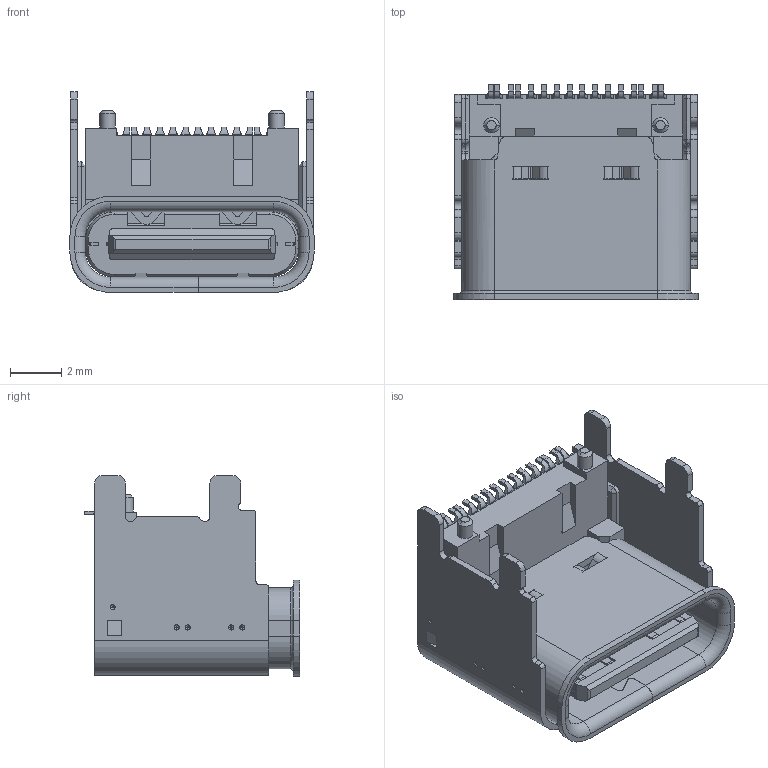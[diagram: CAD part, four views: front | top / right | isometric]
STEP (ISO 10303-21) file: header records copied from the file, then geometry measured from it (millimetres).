
FILE_DESCRIPTION((''),'2;1');
FILE_NAME('GT-USB-7016C01','2023-05-29T',('WYH'),(''),'PRO/ENGINEER BY PARAMETRIC TECHNOLOGY CORPORATION, 2013040','PRO/ENGINEER BY PARAMETRIC TECHNOLOGY CORPORATION, 2013040','');
FILE_SCHEMA(('CONFIG_CONTROL_DESIGN'));
Products named in the file (1): GT-USB-7016C01
Bounding box: 9.54 x 8.4 x 7.85 mm (x, y, z)
Volume: 189.2 mm3; surface area: 1039.9 mm2
Topology: 1 solids, 9 shells, 1911 faces, 5746 edges, 3742 vertices
Faces by surface type: plane 1378, cylinder 431, sphere 28, cone 26, bspline 24, torus 24
Entity records: 65191 total; most frequent: CARTESIAN_POINT 13063, ORIENTED_EDGE 11436, DIRECTION 10276, EDGE_CURVE 5718, VECTOR 4536, LINE 4536, VERTEX_POINT 3742, AXIS2_PLACEMENT_3D 2870
